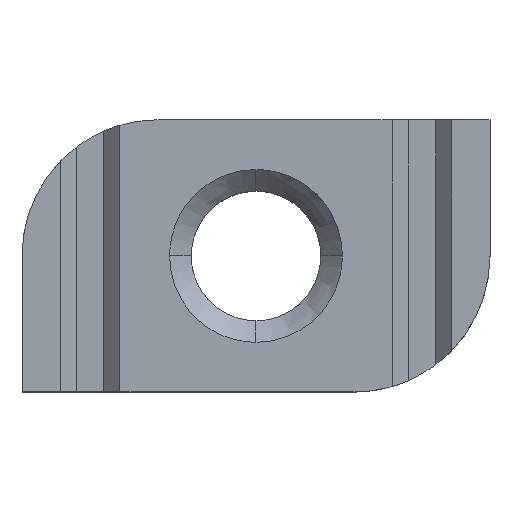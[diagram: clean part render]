
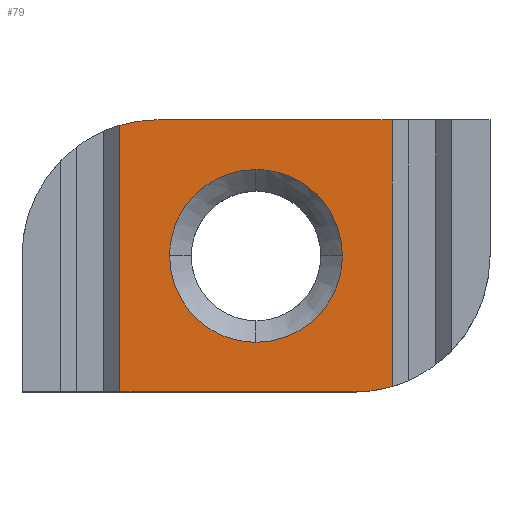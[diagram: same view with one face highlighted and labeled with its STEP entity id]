
A CAD part, top view. The second image highlights one B-rep face of the part: STEP entity #79.
In plain terms, the highlighted planar face has unit normal (0, 0, 1).
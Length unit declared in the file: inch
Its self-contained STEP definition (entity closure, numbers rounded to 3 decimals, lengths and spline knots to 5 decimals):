
#79=ADVANCED_FACE('',(#168,#169),#170,.F.);
#168=FACE_OUTER_BOUND('',#322,.T.);
#169=FACE_BOUND('',#323,.T.);
#170=PLANE('',#324);
#322=EDGE_LOOP('',(#1619,#1620,#1621,#1622,#1623,#1624));
#323=EDGE_LOOP('',(#1625,#1626,#1627,#1628));
#324=AXIS2_PLACEMENT_3D('',#1629,#1630,#1631);
#1619=ORIENTED_EDGE('',*,*,#1824,.T.);
#1620=ORIENTED_EDGE('',*,*,#1813,.T.);
#1621=ORIENTED_EDGE('',*,*,#1825,.F.);
#1622=ORIENTED_EDGE('',*,*,#1798,.T.);
#1623=ORIENTED_EDGE('',*,*,#1826,.T.);
#1624=ORIENTED_EDGE('',*,*,#1827,.F.);
#1625=ORIENTED_EDGE('',*,*,#1828,.F.);
#1626=ORIENTED_EDGE('',*,*,#1829,.F.);
#1627=ORIENTED_EDGE('',*,*,#1790,.F.);
#1628=ORIENTED_EDGE('',*,*,#1830,.F.);
#1629=CARTESIAN_POINT('',(0.67717,0.3937,0.31496));
#1630=DIRECTION('',(0.0,0.0,-1.0));
#1631=DIRECTION('',(1.0,0.0,0.0));
#1790=EDGE_CURVE('',#1906,#1909,#1910,.T.);
#1798=EDGE_CURVE('',#1917,#1921,#1923,.T.);
#1813=EDGE_CURVE('',#1949,#1947,#1950,.T.);
#1824=EDGE_CURVE('',#1965,#1949,#1966,.T.);
#1825=EDGE_CURVE('',#1917,#1947,#1967,.T.);
#1826=EDGE_CURVE('',#1921,#1968,#1969,.T.);
#1827=EDGE_CURVE('',#1965,#1968,#1970,.T.);
#1828=EDGE_CURVE('',#1971,#1972,#1973,.T.);
#1829=EDGE_CURVE('',#1909,#1971,#1974,.T.);
#1830=EDGE_CURVE('',#1972,#1906,#1975,.T.);
#1906=VERTEX_POINT('',#2067);
#1909=VERTEX_POINT('',#2071);
#1910=B_SPLINE_CURVE_WITH_KNOTS('',3,(#2072,#2073,#2074,#2075,#2076,#2077,#2078,#2079,#2080,#2081,#2082,#2083),.UNSPECIFIED.,.F.,.F.,(4,2,2,2,2,4),(0.0,0.05193,0.10245,0.20017,0.29522,0.39076),.UNSPECIFIED.);
#1917=VERTEX_POINT('',#2102);
#1921=VERTEX_POINT('',#2107);
#1923=LINE('',#2110,#2111);
#1947=VERTEX_POINT('',#2159);
#1949=VERTEX_POINT('',#2162);
#1950=LINE('',#2163,#2164);
#1965=VERTEX_POINT('',#2183);
#1966=LINE('',#2184,#2185);
#1967=CIRCLE('',#2186,0.3937);
#1968=VERTEX_POINT('',#2187);
#1969=LINE('',#2188,#2189);
#1970=CIRCLE('',#2190,0.3937);
#1971=VERTEX_POINT('',#2191);
#1972=VERTEX_POINT('',#2192);
#1973=B_SPLINE_CURVE_WITH_KNOTS('',3,(#2193,#2194,#2195,#2196,#2197,#2198,#2199,#2200,#2201,#2202,#2203,#2204,#2205,#2206),.UNSPECIFIED.,.F.,.F.,(4,2,2,2,2,2,4),(0.0,0.05192,0.10244,0.19538,0.20015,0.29521,0.39076),.UNSPECIFIED.);
#1974=B_SPLINE_CURVE_WITH_KNOTS('',3,(#2207,#2208,#2209,#2210,#2211,#2212,#2213,#2214,#2215,#2216,#2217,#2218),.UNSPECIFIED.,.F.,.F.,(4,2,2,2,2,4),(0.0,0.05192,0.10244,0.20015,0.29522,0.39076),.UNSPECIFIED.);
#1975=B_SPLINE_CURVE_WITH_KNOTS('',3,(#2219,#2220,#2221,#2222,#2223,#2224,#2225,#2226,#2227,#2228,#2229,#2230),.UNSPECIFIED.,.F.,.F.,(4,2,2,2,2,4),(0.0,0.09555,0.19061,0.28832,0.33883,0.39076),.UNSPECIFIED.);
#2067=CARTESIAN_POINT('',(0.42717,0.3937,0.31496));
#2071=CARTESIAN_POINT('',(0.67717,0.14369,0.31496));
#2072=CARTESIAN_POINT('',(0.42717,0.3937,0.31496));
#2073=CARTESIAN_POINT('',(0.42717,0.37639,0.31496));
#2074=CARTESIAN_POINT('',(0.42896,0.35899,0.31496));
#2075=CARTESIAN_POINT('',(0.43599,0.32557,0.31496));
#2076=CARTESIAN_POINT('',(0.44116,0.30936,0.31496));
#2077=CARTESIAN_POINT('',(0.4609,0.26406,0.31496));
#2078=CARTESIAN_POINT('',(0.48022,0.2363,0.31496));
#2079=CARTESIAN_POINT('',(0.52649,0.1917,0.31496));
#2080=CARTESIAN_POINT('',(0.55401,0.17379,0.31496));
#2081=CARTESIAN_POINT('',(0.6129,0.14995,0.31496));
#2082=CARTESIAN_POINT('',(0.64532,0.14369,0.31496));
#2083=CARTESIAN_POINT('',(0.67717,0.14369,0.31496));
#2102=CARTESIAN_POINT('',(0.28346,0.77165,0.31496));
#2107=CARTESIAN_POINT('',(0.28346,0.,0.31496));
#2110=CARTESIAN_POINT('',(0.28346,0.19685,0.31496));
#2111=VECTOR('',#2454,0.3937);
#2159=CARTESIAN_POINT('',(0.3937,0.7874,0.31496));
#2162=CARTESIAN_POINT('',(1.07087,0.7874,0.31496));
#2163=CARTESIAN_POINT('',(1.35433,0.7874,0.31496));
#2164=VECTOR('',#2464,0.3937);
#2183=CARTESIAN_POINT('',(1.07087,0.01575,0.31496));
#2184=CARTESIAN_POINT('',(1.07087,0.19685,0.31496));
#2185=VECTOR('',#2478,0.3937);
#2186=AXIS2_PLACEMENT_3D('',#2479,#2480,#2481);
#2187=CARTESIAN_POINT('',(0.96063,0.,0.31496));
#2188=CARTESIAN_POINT('',(0.0,0.,0.31496));
#2189=VECTOR('',#2482,0.3937);
#2190=AXIS2_PLACEMENT_3D('',#2483,#2484,#2485);
#2191=CARTESIAN_POINT('',(0.92717,0.3937,0.31496));
#2192=CARTESIAN_POINT('',(0.67717,0.6437,0.31496));
#2193=CARTESIAN_POINT('',(0.92717,0.3937,0.31496));
#2194=CARTESIAN_POINT('',(0.92717,0.41101,0.31496));
#2195=CARTESIAN_POINT('',(0.92537,0.42841,0.31496));
#2196=CARTESIAN_POINT('',(0.91835,0.46183,0.31496));
#2197=CARTESIAN_POINT('',(0.91317,0.47803,0.31496));
#2198=CARTESIAN_POINT('',(0.89408,0.52187,0.31496));
#2199=CARTESIAN_POINT('',(0.876,0.54839,0.31496));
#2200=CARTESIAN_POINT('',(0.85295,0.57147,0.31496));
#2201=CARTESIAN_POINT('',(0.85181,0.57259,0.31496));
#2202=CARTESIAN_POINT('',(0.82786,0.59569,0.31496));
#2203=CARTESIAN_POINT('',(0.80033,0.6136,0.31496));
#2204=CARTESIAN_POINT('',(0.74144,0.63745,0.31496));
#2205=CARTESIAN_POINT('',(0.70901,0.6437,0.31496));
#2206=CARTESIAN_POINT('',(0.67717,0.6437,0.31496));
#2207=CARTESIAN_POINT('',(0.67717,0.14369,0.31496));
#2208=CARTESIAN_POINT('',(0.69447,0.14369,0.31496));
#2209=CARTESIAN_POINT('',(0.71187,0.14549,0.31496));
#2210=CARTESIAN_POINT('',(0.74529,0.15251,0.31496));
#2211=CARTESIAN_POINT('',(0.76149,0.15769,0.31496));
#2212=CARTESIAN_POINT('',(0.80679,0.17742,0.31496));
#2213=CARTESIAN_POINT('',(0.83455,0.19675,0.31496));
#2214=CARTESIAN_POINT('',(0.87915,0.24301,0.31496));
#2215=CARTESIAN_POINT('',(0.89707,0.27054,0.31496));
#2216=CARTESIAN_POINT('',(0.92091,0.32943,0.31496));
#2217=CARTESIAN_POINT('',(0.92717,0.36185,0.31496));
#2218=CARTESIAN_POINT('',(0.92717,0.3937,0.31496));
#2219=CARTESIAN_POINT('',(0.67717,0.6437,0.31496));
#2220=CARTESIAN_POINT('',(0.64532,0.6437,0.31496));
#2221=CARTESIAN_POINT('',(0.61289,0.63745,0.31496));
#2222=CARTESIAN_POINT('',(0.554,0.6136,0.31496));
#2223=CARTESIAN_POINT('',(0.52647,0.59569,0.31496));
#2224=CARTESIAN_POINT('',(0.48021,0.55109,0.31496));
#2225=CARTESIAN_POINT('',(0.46089,0.52333,0.31496));
#2226=CARTESIAN_POINT('',(0.44116,0.47803,0.31496));
#2227=CARTESIAN_POINT('',(0.43598,0.46183,0.31496));
#2228=CARTESIAN_POINT('',(0.42896,0.42841,0.31496));
#2229=CARTESIAN_POINT('',(0.42717,0.41101,0.31496));
#2230=CARTESIAN_POINT('',(0.42717,0.3937,0.31496));
#2454=DIRECTION('',(0.0,-1.0,0.0));
#2464=DIRECTION('',(-1.0,0.0,0.0));
#2478=DIRECTION('',(0.0,1.0,0.0));
#2479=CARTESIAN_POINT('',(0.3937,0.3937,0.31496));
#2480=DIRECTION('',(0.0,0.0,-1.0));
#2481=DIRECTION('',(-0.707,0.707,0.0));
#2482=DIRECTION('',(1.0,0.0,0.0));
#2483=CARTESIAN_POINT('',(0.96063,0.3937,0.31496));
#2484=DIRECTION('',(0.0,0.0,-1.0));
#2485=DIRECTION('',(0.707,-0.707,0.0));
